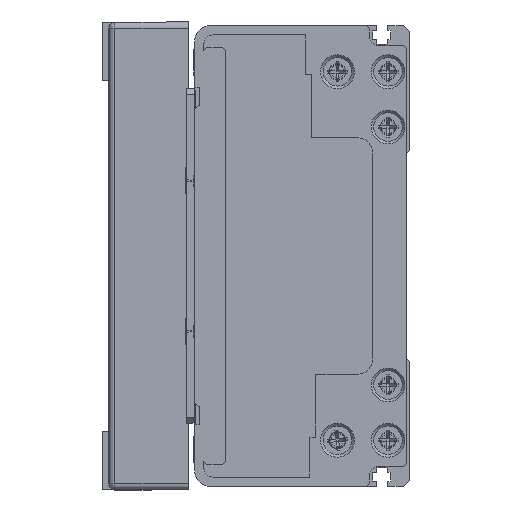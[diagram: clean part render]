
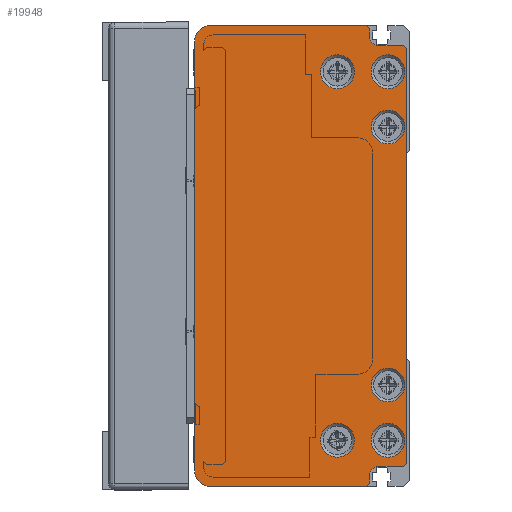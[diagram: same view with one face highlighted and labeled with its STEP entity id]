
A CAD part, left-side view. The second image highlights one B-rep face of the part: STEP entity #19948.
In plain terms, the highlighted planar face has unit normal (-1, 0, 0) as drawn and (0, 0, -1) by its records, which use the part's own axes.
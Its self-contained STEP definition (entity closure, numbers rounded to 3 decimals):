
#934=LINE('',#28882,#2599);
#935=LINE('',#28886,#2600);
#936=LINE('',#28888,#2601);
#937=LINE('',#28890,#2602);
#938=LINE('',#28894,#2603);
#939=LINE('',#28896,#2604);
#940=LINE('',#28898,#2605);
#941=LINE('',#28900,#2606);
#942=LINE('',#28902,#2607);
#943=LINE('',#28906,#2608);
#944=LINE('',#28908,#2609);
#945=LINE('',#28910,#2610);
#2599=VECTOR('',#23459,140.);
#2600=VECTOR('',#23462,51.);
#2601=VECTOR('',#23463,1.414);
#2602=VECTOR('',#23464,2.5);
#2603=VECTOR('',#23467,8.);
#2604=VECTOR('',#23468,1.414);
#2605=VECTOR('',#23469,135.);
#2606=VECTOR('',#23470,1.414);
#2607=VECTOR('',#23471,8.);
#2608=VECTOR('',#23474,2.5);
#2609=VECTOR('',#23475,1.414);
#2610=VECTOR('',#23476,51.);
#4217=PLANE('',#21330);
#4850=FACE_BOUND('',#6720,.T.);
#4851=FACE_BOUND('',#6721,.T.);
#4852=FACE_BOUND('',#6722,.T.);
#4853=FACE_BOUND('',#6723,.T.);
#4854=FACE_BOUND('',#6724,.T.);
#4855=FACE_BOUND('',#6725,.T.);
#5425=FACE_OUTER_BOUND('',#6719,.T.);
#6719=EDGE_LOOP('',(#14019,#14020,#14021,#14022,#14023,#14024,#14025,#14026,
#14027,#14028,#14029,#14030,#14031,#14032,#14033,#14034));
#6720=EDGE_LOOP('',(#14035));
#6721=EDGE_LOOP('',(#14036));
#6722=EDGE_LOOP('',(#14037));
#6723=EDGE_LOOP('',(#14038));
#6724=EDGE_LOOP('',(#14039));
#6725=EDGE_LOOP('',(#14040));
#8243=CIRCLE('',#21331,5.);
#8244=CIRCLE('',#21332,3.);
#8245=CIRCLE('',#21333,3.);
#8246=CIRCLE('',#21334,5.);
#8247=CIRCLE('',#21335,5.5);
#8248=CIRCLE('',#21336,5.5);
#8249=CIRCLE('',#21337,5.5);
#8250=CIRCLE('',#21338,5.5);
#8251=CIRCLE('',#21339,5.5);
#8252=CIRCLE('',#21340,5.5);
#8943=VERTEX_POINT('',#28880);
#8944=VERTEX_POINT('',#28881);
#8945=VERTEX_POINT('',#28883);
#8946=VERTEX_POINT('',#28885);
#8947=VERTEX_POINT('',#28887);
#8948=VERTEX_POINT('',#28889);
#8949=VERTEX_POINT('',#28891);
#8950=VERTEX_POINT('',#28893);
#8951=VERTEX_POINT('',#28895);
#8952=VERTEX_POINT('',#28897);
#8953=VERTEX_POINT('',#28899);
#8954=VERTEX_POINT('',#28901);
#8955=VERTEX_POINT('',#28903);
#8956=VERTEX_POINT('',#28905);
#8957=VERTEX_POINT('',#28907);
#8958=VERTEX_POINT('',#28909);
#8959=VERTEX_POINT('',#28912);
#8960=VERTEX_POINT('',#28914);
#8961=VERTEX_POINT('',#28916);
#8962=VERTEX_POINT('',#28918);
#8963=VERTEX_POINT('',#28920);
#8964=VERTEX_POINT('',#28922);
#10987=EDGE_CURVE('',#8943,#8944,#934,.T.);
#10988=EDGE_CURVE('',#8944,#8945,#8243,.T.);
#10989=EDGE_CURVE('',#8945,#8946,#935,.T.);
#10990=EDGE_CURVE('',#8946,#8947,#936,.T.);
#10991=EDGE_CURVE('',#8947,#8948,#937,.T.);
#10992=EDGE_CURVE('',#8948,#8949,#8244,.T.);
#10993=EDGE_CURVE('',#8949,#8950,#938,.T.);
#10994=EDGE_CURVE('',#8950,#8951,#939,.T.);
#10995=EDGE_CURVE('',#8951,#8952,#940,.T.);
#10996=EDGE_CURVE('',#8952,#8953,#941,.T.);
#10997=EDGE_CURVE('',#8953,#8954,#942,.T.);
#10998=EDGE_CURVE('',#8954,#8955,#8245,.T.);
#10999=EDGE_CURVE('',#8955,#8956,#943,.T.);
#11000=EDGE_CURVE('',#8956,#8957,#944,.T.);
#11001=EDGE_CURVE('',#8957,#8958,#945,.T.);
#11002=EDGE_CURVE('',#8958,#8943,#8246,.T.);
#11003=EDGE_CURVE('',#8959,#8959,#8247,.T.);
#11004=EDGE_CURVE('',#8960,#8960,#8248,.T.);
#11005=EDGE_CURVE('',#8961,#8961,#8249,.T.);
#11006=EDGE_CURVE('',#8962,#8962,#8250,.T.);
#11007=EDGE_CURVE('',#8963,#8963,#8251,.T.);
#11008=EDGE_CURVE('',#8964,#8964,#8252,.T.);
#14019=ORIENTED_EDGE('',*,*,#10987,.T.);
#14020=ORIENTED_EDGE('',*,*,#10988,.T.);
#14021=ORIENTED_EDGE('',*,*,#10989,.T.);
#14022=ORIENTED_EDGE('',*,*,#10990,.T.);
#14023=ORIENTED_EDGE('',*,*,#10991,.T.);
#14024=ORIENTED_EDGE('',*,*,#10992,.T.);
#14025=ORIENTED_EDGE('',*,*,#10993,.T.);
#14026=ORIENTED_EDGE('',*,*,#10994,.T.);
#14027=ORIENTED_EDGE('',*,*,#10995,.T.);
#14028=ORIENTED_EDGE('',*,*,#10996,.T.);
#14029=ORIENTED_EDGE('',*,*,#10997,.T.);
#14030=ORIENTED_EDGE('',*,*,#10998,.T.);
#14031=ORIENTED_EDGE('',*,*,#10999,.T.);
#14032=ORIENTED_EDGE('',*,*,#11000,.T.);
#14033=ORIENTED_EDGE('',*,*,#11001,.T.);
#14034=ORIENTED_EDGE('',*,*,#11002,.T.);
#14035=ORIENTED_EDGE('',*,*,#11003,.T.);
#14036=ORIENTED_EDGE('',*,*,#11004,.T.);
#14037=ORIENTED_EDGE('',*,*,#11005,.T.);
#14038=ORIENTED_EDGE('',*,*,#11006,.T.);
#14039=ORIENTED_EDGE('',*,*,#11007,.T.);
#14040=ORIENTED_EDGE('',*,*,#11008,.T.);
#19948=ADVANCED_FACE('',(#5425,#4850,#4851,#4852,#4853,#4854,#4855),#4217,
 .F.);
#21330=AXIS2_PLACEMENT_3D('',#28879,#23457,#23458);
#21331=AXIS2_PLACEMENT_3D('',#28884,#23460,#23461);
#21332=AXIS2_PLACEMENT_3D('',#28892,#23465,#23466);
#21333=AXIS2_PLACEMENT_3D('',#28904,#23472,#23473);
#21334=AXIS2_PLACEMENT_3D('',#28911,#23477,#23478);
#21335=AXIS2_PLACEMENT_3D('',#28913,#23479,#23480);
#21336=AXIS2_PLACEMENT_3D('',#28915,#23481,#23482);
#21337=AXIS2_PLACEMENT_3D('',#28917,#23483,#23484);
#21338=AXIS2_PLACEMENT_3D('',#28919,#23485,#23486);
#21339=AXIS2_PLACEMENT_3D('',#28921,#23487,#23488);
#21340=AXIS2_PLACEMENT_3D('',#28923,#23489,#23490);
#23457=DIRECTION('center_axis',(0.,0.,
1.));
#23458=DIRECTION('ref_axis',(1.,0.,0.));
#23459=DIRECTION('',(1.,0.,0.));
#23460=DIRECTION('center_axis',(0.,0.,
-1.));
#23461=DIRECTION('ref_axis',(-1.,0.,0.));
#23462=DIRECTION('',(0.,-1.,0.));
#23463=DIRECTION('',(-0.707,-0.707,0.));
#23464=DIRECTION('',(-1.,0.,0.));
#23465=DIRECTION('center_axis',(0.,0.,
1.));
#23466=DIRECTION('ref_axis',(0.,1.,0.));
#23467=DIRECTION('',(0.,-1.,0.));
#23468=DIRECTION('',(-0.707,-0.707,0.));
#23469=DIRECTION('',(-1.,0.,0.));
#23470=DIRECTION('',(-0.707,0.707,0.));
#23471=DIRECTION('',(0.,1.,0.));
#23472=DIRECTION('center_axis',(0.,0.,
1.));
#23473=DIRECTION('ref_axis',(1.,0.,0.));
#23474=DIRECTION('',(-1.,0.,0.));
#23475=DIRECTION('',(-0.707,0.707,0.));
#23476=DIRECTION('',(0.,1.,0.));
#23477=DIRECTION('center_axis',(0.,0.,
-1.));
#23478=DIRECTION('ref_axis',(0.,-1.,0.));
#23479=DIRECTION('center_axis',(0.,0.,
1.));
#23480=DIRECTION('ref_axis',(-1.,0.,0.));
#23481=DIRECTION('center_axis',(0.,0.,
1.));
#23482=DIRECTION('ref_axis',(-1.,0.,0.));
#23483=DIRECTION('center_axis',(0.,0.,
1.));
#23484=DIRECTION('ref_axis',(-1.,0.,0.));
#23485=DIRECTION('center_axis',(0.,0.,
1.));
#23486=DIRECTION('ref_axis',(-1.,0.,0.));
#23487=DIRECTION('center_axis',(0.,0.,
1.));
#23488=DIRECTION('ref_axis',(-1.,0.,0.));
#23489=DIRECTION('center_axis',(0.,0.,
1.));
#23490=DIRECTION('ref_axis',(-1.,0.,0.));
#28879=CARTESIAN_POINT('Origin',(0.25,38.047,-1669.));
#28880=CARTESIAN_POINT('',(-69.75,72.25,-1669.));
#28881=CARTESIAN_POINT('',(70.25,72.25,-1669.));
#28882=CARTESIAN_POINT('',(-69.75,72.25,-1669.));
#28883=CARTESIAN_POINT('',(75.25,67.25,-1669.));
#28884=CARTESIAN_POINT('Origin',(70.25,67.25,-1669.));
#28885=CARTESIAN_POINT('',(75.25,16.25,-1669.));
#28886=CARTESIAN_POINT('',(75.25,67.25,-1669.));
#28887=CARTESIAN_POINT('',(74.25,15.25,-1669.));
#28888=CARTESIAN_POINT('',(75.25,16.25,-1669.));
#28889=CARTESIAN_POINT('',(71.75,15.25,-1669.));
#28890=CARTESIAN_POINT('',(74.25,15.25,-1669.));
#28891=CARTESIAN_POINT('',(68.75,12.25,-1669.));
#28892=CARTESIAN_POINT('Origin',(71.75,12.25,-1669.));
#28893=CARTESIAN_POINT('',(68.75,4.25,-1669.));
#28894=CARTESIAN_POINT('',(68.75,12.25,-1669.));
#28895=CARTESIAN_POINT('',(67.75,3.25,-1669.));
#28896=CARTESIAN_POINT('',(68.75,4.25,-1669.));
#28897=CARTESIAN_POINT('',(-67.25,3.25,-1669.));
#28898=CARTESIAN_POINT('',(67.75,3.25,-1669.));
#28899=CARTESIAN_POINT('',(-68.25,4.25,-1669.));
#28900=CARTESIAN_POINT('',(-67.25,3.25,-1669.));
#28901=CARTESIAN_POINT('',(-68.25,12.25,-1669.));
#28902=CARTESIAN_POINT('',(-68.25,4.25,-1669.));
#28903=CARTESIAN_POINT('',(-71.25,15.25,-1669.));
#28904=CARTESIAN_POINT('Origin',(-71.25,12.25,-1669.));
#28905=CARTESIAN_POINT('',(-73.75,15.25,-1669.));
#28906=CARTESIAN_POINT('',(-71.25,15.25,-1669.));
#28907=CARTESIAN_POINT('',(-74.75,16.25,-1669.));
#28908=CARTESIAN_POINT('',(-73.75,15.25,-1669.));
#28909=CARTESIAN_POINT('',(-74.75,67.25,-1669.));
#28910=CARTESIAN_POINT('',(-74.75,16.25,-1669.));
#28911=CARTESIAN_POINT('Origin',(-69.75,67.25,-1669.));
#28912=CARTESIAN_POINT('',(-47.25,9.25,-1669.));
#28913=CARTESIAN_POINT('Origin',(-41.75,9.25,-1669.));
#28914=CARTESIAN_POINT('',(36.75,9.25,-1669.));
#28915=CARTESIAN_POINT('Origin',(42.25,9.25,-1669.));
#28916=CARTESIAN_POINT('',(-65.25,25.75,-1669.));
#28917=CARTESIAN_POINT('Origin',(-59.75,25.75,-1669.));
#28918=CARTESIAN_POINT('',(54.75,25.75,-1669.));
#28919=CARTESIAN_POINT('Origin',(60.25,25.75,-1669.));
#28920=CARTESIAN_POINT('',(-65.25,9.25,-1669.));
#28921=CARTESIAN_POINT('Origin',(-59.75,9.25,-1669.));
#28922=CARTESIAN_POINT('',(54.75,9.25,-1669.));
#28923=CARTESIAN_POINT('Origin',(60.25,9.25,-1669.));
